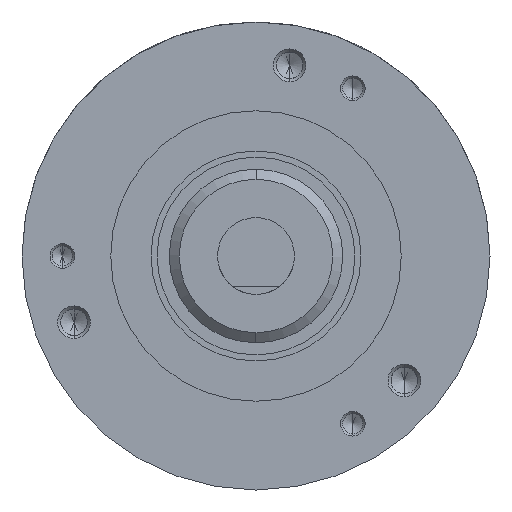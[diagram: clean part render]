
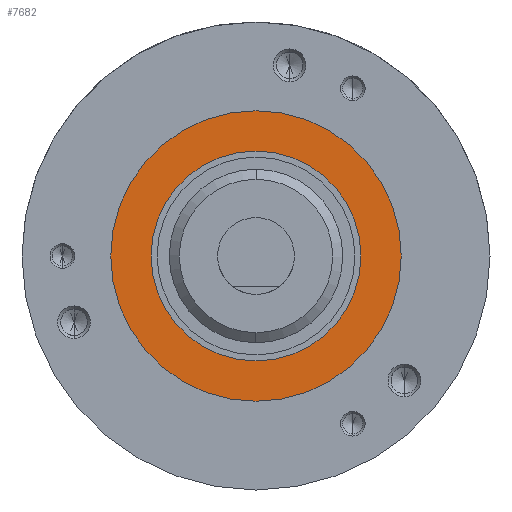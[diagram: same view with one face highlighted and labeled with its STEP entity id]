
A CAD part, left-side view. The second image highlights one B-rep face of the part: STEP entity #7682.
In plain terms, the highlighted planar face has unit normal (-1, 0, 0).
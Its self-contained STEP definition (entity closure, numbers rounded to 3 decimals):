
#40 = EDGE_CURVE ( 'NONE', #5857, #1544, #801, .T. ) ;
#196 = DIRECTION ( 'NONE',  ( 0., 0., -1. ) ) ;
#801 = CIRCLE ( 'NONE', #5905, 13. ) ;
#879 = CIRCLE ( 'NONE', #9922, 18. ) ;
#1242 = CARTESIAN_POINT ( 'NONE',  ( -3.622, 25.423, 18. ) ) ;
#1530 = DIRECTION ( 'NONE',  ( 1., 0., 0. ) ) ;
#1544 = VERTEX_POINT ( 'NONE', #9344 ) ;
#1545 = CARTESIAN_POINT ( 'NONE',  ( -3.622, 25.423, 13. ) ) ;
#2144 = CARTESIAN_POINT ( 'NONE',  ( -3.622, 25.423, 0. ) ) ;
#2455 = AXIS2_PLACEMENT_3D ( 'NONE', #12398, #1530, #196 ) ;
#3503 = DIRECTION ( 'NONE',  ( 0., 0., 1. ) ) ;
#3830 = CIRCLE ( 'NONE', #13718, 18. ) ;
#4317 = ORIENTED_EDGE ( 'NONE', *, *, #16599, .T. ) ;
#4329 = DIRECTION ( 'NONE',  ( -1., 0., 0. ) ) ;
#4631 = CARTESIAN_POINT ( 'NONE',  ( -3.622, 25.423, -18. ) ) ;
#4781 = CARTESIAN_POINT ( 'NONE',  ( -3.622, 25.423, 0. ) ) ;
#5806 = ORIENTED_EDGE ( 'NONE', *, *, #40, .F. ) ;
#5857 = VERTEX_POINT ( 'NONE', #1545 ) ;
#5905 = AXIS2_PLACEMENT_3D ( 'NONE', #16374, #4329, #6703 ) ;
#6703 = DIRECTION ( 'NONE',  ( 0., 0., 1. ) ) ;
#7018 = PLANE ( 'NONE',  #2455 ) ;
#7036 = EDGE_LOOP ( 'NONE', ( #5806, #8747 ) ) ;
#7100 = FACE_BOUND ( 'NONE', #7036, .T. ) ;
#7158 = EDGE_LOOP ( 'NONE', ( #11316, #4317 ) ) ;
#7538 = DIRECTION ( 'NONE',  ( 0., 0., 1. ) ) ;
#7682 = ADVANCED_FACE ( 'NONE', ( #7100, #16314 ), #7018, .F. ) ;
#8409 = CARTESIAN_POINT ( 'NONE',  ( -3.622, 25.423, 0. ) ) ;
#8747 = ORIENTED_EDGE ( 'NONE', *, *, #10224, .F. ) ;
#9344 = CARTESIAN_POINT ( 'NONE',  ( -3.622, 25.423, -13. ) ) ;
#9922 = AXIS2_PLACEMENT_3D ( 'NONE', #2144, #10266, #7538 ) ;
#10170 = DIRECTION ( 'NONE',  ( -1., 0., 0. ) ) ;
#10224 = EDGE_CURVE ( 'NONE', #1544, #5857, #17528, .T. ) ;
#10266 = DIRECTION ( 'NONE',  ( -1., 0., 0. ) ) ;
#11007 = AXIS2_PLACEMENT_3D ( 'NONE', #8409, #16643, #3503 ) ;
#11316 = ORIENTED_EDGE ( 'NONE', *, *, #13450, .T. ) ;
#11332 = DIRECTION ( 'NONE',  ( 0., 0., 1. ) ) ;
#12398 = CARTESIAN_POINT ( 'NONE',  ( -3.622, 43.423, 0. ) ) ;
#12995 = VERTEX_POINT ( 'NONE', #4631 ) ;
#13450 = EDGE_CURVE ( 'NONE', #13593, #12995, #3830, .T. ) ;
#13593 = VERTEX_POINT ( 'NONE', #1242 ) ;
#13718 = AXIS2_PLACEMENT_3D ( 'NONE', #4781, #10170, #11332 ) ;
#16314 = FACE_OUTER_BOUND ( 'NONE', #7158, .T. ) ;
#16374 = CARTESIAN_POINT ( 'NONE',  ( -3.622, 25.423, 0. ) ) ;
#16599 = EDGE_CURVE ( 'NONE', #12995, #13593, #879, .T. ) ;
#16643 = DIRECTION ( 'NONE',  ( -1., 0., 0. ) ) ;
#17528 = CIRCLE ( 'NONE', #11007, 13. ) ;
